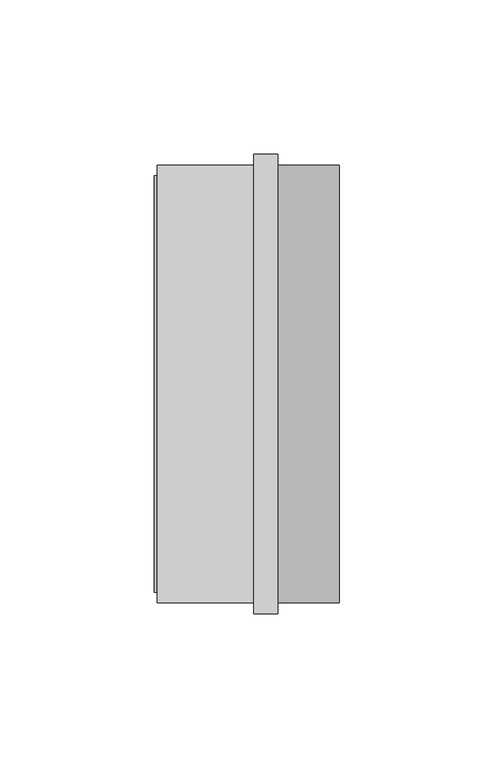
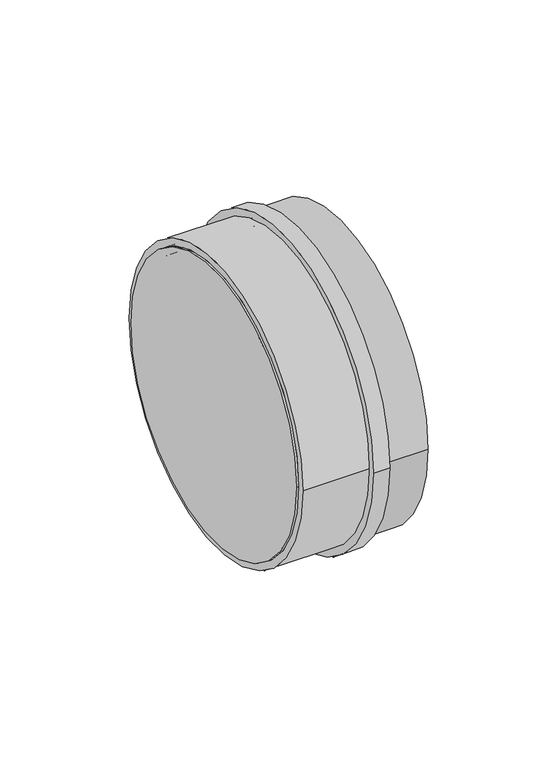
"""IFC4 building model written with IfcOpenShell, lengths in millimetres: pipe fitting geometry, Superdrain SKM-Plug : Superdrain SKM-Plug."""

import ifcopenshell
import ifcopenshell.guid

model = None  # the IFC model being written
_history = None  # IfcOwnerHistory: only IFC2X3 demands one
_inside = {}  # id of a spatial element -> (the spatial element, [elements in it])
_under = {}  # id of a project, library or spatial element -> (it, [spatial elements below it])
_declared = {}  # id of a project -> (the project, [libraries it declares])
_typed = {}  # id of a type object -> (the type object, [elements of that type])
_made_of = {}  # id of a material, layer set ... -> (it, [elements and type objects made of it])


def new_model(schema):
    """Start an empty IFC model of exactly this schema.

    Asked for "IFC4X3", IfcOpenShell would pick the latest addendum, in which some entities
    have other attributes; the version numbers below select the first issue.
    IFC2X3 requires an IfcOwnerHistory on every rooted entity: one is made here for all.
    """
    global model, _history
    if schema == "IFC4X3":
        model = ifcopenshell.file(schema_version=(4, 3, 0, 0))
    else:
        model = ifcopenshell.file(schema=schema)
    _inside.clear()
    _under.clear()
    _declared.clear()
    _typed.clear()
    _made_of.clear()
    _history = None
    if model.schema == "IFC2X3":
        org = make("IfcOrganization", Name="unknown")
        user = make(
            "IfcPersonAndOrganization",
            ThePerson=make("IfcPerson", FamilyName="unknown"),
            TheOrganization=org,
        )
        app = make(
            "IfcApplication",
            ApplicationDeveloper=org,
            Version="unknown",
            ApplicationFullName="unknown",
            ApplicationIdentifier="unknown",
        )
        _history = make(
            "IfcOwnerHistory",
            OwningUser=user,
            OwningApplication=app,
            ChangeAction="ADDED",
            CreationDate=0,
        )
    return model


def make(cls, **values):
    """One entity of the class cls with the attributes given. An attribute that is None is left unset."""
    return model.create_entity(
        cls, **{name: value for name, value in values.items() if value is not None}
    )


def rooted(cls, **values):
    """An entity with a GlobalId (a new one), such as an element, a storey or a relation."""
    return make(cls, GlobalId=ifcopenshell.guid.new(), OwnerHistory=_history, **values)


def si_unit(unit_type, name, prefix=None):
    """IfcSIUnit, for example si_unit("LENGTHUNIT", "METRE", prefix="MILLI")."""
    return make("IfcSIUnit", UnitType=unit_type, Prefix=prefix, Name=name)


def assignment(units):
    """IfcUnitAssignment: the units of a project."""
    return None if units is None else make("IfcUnitAssignment", Units=units)


def point(xyz):
    """IfcCartesianPoint."""
    return None if xyz is None else make("IfcCartesianPoint", Coordinates=xyz)


def direction(xyz):
    """IfcDirection."""
    return None if xyz is None else make("IfcDirection", DirectionRatios=xyz)


def frame(location, z_axis=None, x_axis=None):
    """IfcAxis2Placement3D, a coordinate frame: its origin and axes. An axis left out is left unset."""
    return make(
        "IfcAxis2Placement3D",
        Location=point(location),
        Axis=direction(z_axis),
        RefDirection=direction(x_axis),
    )


def frame_2d(location, x_axis=None):
    """IfcAxis2Placement2D, a coordinate frame in the plane: its origin and x axis."""
    return make(
        "IfcAxis2Placement2D", Location=point(location), RefDirection=direction(x_axis)
    )


def origin():
    """The frame at (0, 0, 0) with its axes left unset."""
    return frame((0.0, 0.0, 0.0))


def origin_2d():
    """The frame at (0, 0) in the plane with its x axis left unset."""
    return frame_2d((0.0, 0.0))


def place(relative_to, where):
    """IfcLocalPlacement: puts the frame where relative to a parent placement (None: the world)."""
    return make(
        "IfcLocalPlacement", PlacementRelTo=relative_to, RelativePlacement=where
    )


def context(
    kind, dimensions, precision=None, world=None, true_north=None, identifier=None
):
    """IfcGeometricRepresentationContext, for example the 3D "Model" context."""
    return make(
        "IfcGeometricRepresentationContext",
        ContextIdentifier=identifier,
        ContextType=kind,
        CoordinateSpaceDimension=dimensions,
        Precision=precision,
        WorldCoordinateSystem=world,
        TrueNorth=true_north,
    )


def project(units=None, contexts=None):
    """IfcProject with its units and contexts."""
    return rooted(
        "IfcProject",
        Name="project",
        RepresentationContexts=contexts,
        UnitsInContext=assignment(units),
    )


def spatial(cls, under=None, at=None, **own):
    """A site, building, storey or space (cls), placed at a placement, below another one or the project."""
    s = rooted(cls, ObjectPlacement=at, **own)
    if under is not None:
        _under.setdefault(under.id(), (under, []))[1].append(s)
    return s


def polyline(points):
    """IfcPolyline through the points."""
    return make("IfcPolyline", Points=[point(p) for p in points])


def circle_curve(where, radius):
    """IfcCircle in the frame where."""
    return make("IfcCircle", Position=where, Radius=radius)


def trimmed(basis, trim1, trim2, sense, master):
    """IfcTrimmedCurve: the piece of a basis curve between two trims."""
    return make(
        "IfcTrimmedCurve",
        BasisCurve=basis,
        Trim1=trim1,
        Trim2=trim2,
        SenseAgreement=sense,
        MasterRepresentation=master,
    )


def segment(curve, same_sense, transition):
    """IfcCompositeCurveSegment."""
    return make(
        "IfcCompositeCurveSegment",
        Transition=transition,
        SameSense=same_sense,
        ParentCurve=curve,
    )


def composite_curve(segments, self_intersect=None):
    """IfcCompositeCurve: segments joined end to end."""
    return make("IfcCompositeCurve", Segments=segments, SelfIntersect=self_intersect)


def outline(outer, holes=None, kind="AREA"):
    """IfcArbitraryClosedProfileDef: a profile drawn as a closed curve; with holes, ...WithVoids."""
    if holes is None:
        return make("IfcArbitraryClosedProfileDef", ProfileType=kind, OuterCurve=outer)
    return make(
        "IfcArbitraryProfileDefWithVoids",
        ProfileType=kind,
        OuterCurve=outer,
        InnerCurves=holes,
    )


def extrude(swept, where, along, depth):
    """IfcExtrudedAreaSolid: the profile swept, set in the frame where, extruded along a direction by depth."""
    return make(
        "IfcExtrudedAreaSolid",
        SweptArea=swept,
        Position=where,
        ExtrudedDirection=direction(along),
        Depth=depth,
    )


def shape(context_of_items, identifier, shape_type, items):
    """IfcShapeRepresentation: the items that make up one representation, for example the "Body"."""
    return make(
        "IfcShapeRepresentation",
        ContextOfItems=context_of_items,
        RepresentationIdentifier=identifier,
        RepresentationType=shape_type,
        Items=items,
    )


def source(mapping_origin, context_of_items, identifier, shape_type, items):
    """IfcRepresentationMap: a shape defined once, which mapped items show again and again."""
    return make(
        "IfcRepresentationMap",
        MappingOrigin=mapping_origin,
        MappedRepresentation=shape(context_of_items, identifier, shape_type, items),
    )


def transform(
    local_origin,
    x_axis=None,
    y_axis=None,
    z_axis=None,
    scale=None,
    scale2=None,
    scale3=None,
    uniform=True,
):
    """IfcCartesianTransformationOperator3D, or its non-uniform kind. x_axis, y_axis, z_axis: its Axis1, 2, 3."""
    if uniform:
        return make(
            "IfcCartesianTransformationOperator3D",
            Axis1=direction(x_axis),
            Axis2=direction(y_axis),
            LocalOrigin=point(local_origin),
            Scale=scale,
            Axis3=direction(z_axis),
        )
    return make(
        "IfcCartesianTransformationOperator3DnonUniform",
        Axis1=direction(x_axis),
        Axis2=direction(y_axis),
        LocalOrigin=point(local_origin),
        Scale=scale,
        Axis3=direction(z_axis),
        Scale2=scale2,
        Scale3=scale3,
    )


def mapped(mapping_source, mapping_target):
    """IfcMappedItem: shows the shape of a source again, moved by a transform."""
    return make(
        "IfcMappedItem", MappingSource=mapping_source, MappingTarget=mapping_target
    )


def made_of(thing, what):
    """Note that an element or type object is made of a material, layer set ...; save() writes the relation."""
    if what is not None:
        _made_of.setdefault(what.id(), (what, []))[1].append(thing)
    return thing


def element(
    cls,
    number,
    at=None,
    inside=None,
    cuts=None,
    type_object=None,
    material=None,
    context=None,
    identifier="Body",
    shape_type=None,
    held_by="IfcProductDefinitionShape",
    body=None,
    shapes=None,
    **own,
):
    """One element of the class cls, such as IfcWall. Its Tag is "e" and its number.

    at: its placement. inside: the storey or other place that contains it. cuts: it is an
    opening in that element (IfcRelVoidsElement). A single representation is given by context,
    identifier, shape_type and body (its items); several are given by shapes. held_by: the class
    of the entity that holds the representations. save() writes the other relations.
    """
    e = rooted(cls, Tag="e%d" % number, ObjectPlacement=at, **own)
    if body is not None:
        shapes = [shape(context, identifier, shape_type, body)]
    if shapes is not None:
        e.Representation = make(held_by, Representations=shapes)
    if inside is not None:
        _inside.setdefault(inside.id(), (inside, []))[1].append(e)
    if cuts is not None:
        rooted(
            "IfcRelVoidsElement", RelatingBuildingElement=cuts, RelatedOpeningElement=e
        )
    if type_object is not None:
        _typed.setdefault(type_object.id(), (type_object, []))[1].append(e)
    return made_of(e, material)


def aggregate(whole, parts):
    """IfcRelAggregates: a whole, such as a stair, and the parts it consists of."""
    return rooted("IfcRelAggregates", RelatingObject=whole, RelatedObjects=parts)


def save(model, path):
    """Write the relations noted so far, then the file.

    IfcRelAggregates (storeys below a building ...), IfcRelContainedInSpatialStructure (elements
    in a storey), IfcRelDefinesByType, IfcRelAssociatesMaterial and IfcRelDeclares: one each for
    every whole, place, type object, material and project.
    """
    for whole, parts in _under.values():
        aggregate(whole, parts)
    for where, things in _inside.values():
        rooted(
            "IfcRelContainedInSpatialStructure",
            RelatedElements=things,
            RelatingStructure=where,
        )
    for kind, things in _typed.values():
        rooted("IfcRelDefinesByType", RelatedObjects=things, RelatingType=kind)
    for what, things in _made_of.values():
        rooted("IfcRelAssociatesMaterial", RelatedObjects=things, RelatingMaterial=what)
    for by, libraries in _declared.values():
        rooted("IfcRelDeclares", RelatingContext=by, RelatedDefinitions=libraries)
    model.write(path)


def plane_surface(at):
    """IfcPlane: the flat surface through the origin of the frame at, square to its z axis."""
    return make("IfcPlane", Position=at)


def cylinder_surface(at, radius):
    """IfcCylindricalSurface: all points at the distance radius from the z axis of the frame at."""
    return make("IfcCylindricalSurface", Position=at, Radius=radius)


def revolved_surface(curve, axis_point, axis_direction):
    """IfcSurfaceOfRevolution: the curve turned about the line through axis_point along axis_direction."""
    return make(
        "IfcSurfaceOfRevolution",
        SweptCurve=make("IfcArbitraryOpenProfileDef", ProfileType="CURVE", Curve=curve),
        AxisPosition=make("IfcAxis1Placement", Location=point(axis_point), Axis=direction(axis_direction)),
    )


def advanced_brep(points, edges, surfaces, faces):
    """IfcAdvancedBrep: a solid bounded by faces that lie on surfaces and meet in shared edges.

    An edge is (start, end): straight between two places in points (the first is 0);
    or (start, end, curve); or (start, end, curve, False) where it runs against its curve.
    A face is (place in surfaces, loops), or (place, loops, False) where it looks against
    its surface's normal. A loop lists edges by number (the first is 1), with a minus sign
    where the edge is run from its end to its start. The first loop is the outer one.
    """
    corners = [point(p) for p in points]
    vertices = [make("IfcVertexPoint", VertexGeometry=c) for c in corners]
    made = []
    for start, end, *more in edges:
        made.append(
            make(
                "IfcEdgeCurve",
                EdgeStart=vertices[start],
                EdgeEnd=vertices[end],
                EdgeGeometry=more[0] if more else make("IfcPolyline", Points=[corners[start], corners[end]]),
                SameSense=more[1] if len(more) > 1 else True,
            )
        )
    hull = []
    for where, loops, *sense in faces:
        bounds = []
        for j, loop in enumerate(loops):
            ring = [make("IfcOrientedEdge", EdgeElement=made[abs(k) - 1], Orientation=k > 0) for k in loop]
            bounds.append(
                make(
                    "IfcFaceOuterBound" if j == 0 else "IfcFaceBound",
                    Bound=make("IfcEdgeLoop", EdgeList=ring),
                    Orientation=True,
                )
            )
        hull.append(make("IfcAdvancedFace", Bounds=bounds, FaceSurface=surfaces[where], SameSense=sense[0] if sense else True))
    return make("IfcAdvancedBrep", Outer=make("IfcClosedShell", CfsFaces=hull))


def pipe_fitting_a771f2ab(model_context):
    return source(origin(), model_context, "Body", "SolidModel", [
        extrude(outline(composite_curve([segment(trimmed(circle_curve(origin_2d(), 70.875), [point((70.875, 0.0))], [point((-70.875, 0.0))], False, "CARTESIAN"), True, "CONTINUOUS"), segment(trimmed(circle_curve(origin_2d(), 70.875), [point((-70.875, 0.0))], [point((70.875, 0.0))], False, "CARTESIAN"), True, "CONTINUOUS")], self_intersect=False), holes=[composite_curve([segment(trimmed(circle_curve(origin_2d(), 67.5), [point((67.5, 0.0))], [point((-67.5, 0.0))], True, "CARTESIAN"), True, "CONTINUOUS"), segment(trimmed(circle_curve(origin_2d(), 67.5), [point((-67.5, 0.0))], [point((67.5, 0.0))], True, "CARTESIAN"), True, "CONTINUOUS")], self_intersect=False)]), frame((0.0, 0.0, 0.0), z_axis=(1.0, 0.0, 0.0), x_axis=(0.0, 1.0, 0.0)), (0.0, 0.0, 1.0), 39.0),
        extrude(outline(composite_curve([segment(trimmed(circle_curve(origin_2d(), 74.41875), [point((74.41875, 0.0))], [point((-74.41875, 0.0))], False, "CARTESIAN"), True, "CONTINUOUS"), segment(trimmed(circle_curve(origin_2d(), 74.41875), [point((-74.41875, 0.0))], [point((74.41875, 0.0))], False, "CARTESIAN"), True, "CONTINUOUS")], self_intersect=False), holes=[composite_curve([segment(trimmed(circle_curve(origin_2d(), 67.5), [point((67.5, 0.0))], [point((-67.5, 0.0))], True, "CARTESIAN"), True, "CONTINUOUS"), segment(trimmed(circle_curve(origin_2d(), 67.5), [point((-67.5, 0.0))], [point((67.5, 0.0))], True, "CARTESIAN"), True, "CONTINUOUS")], self_intersect=False)]), frame((31.2, 0.0, 0.0), z_axis=(1.0, 0.0, 0.0), x_axis=(0.0, 1.0, 0.0)), (0.0, 0.0, 1.0), 7.8),
        extrude(outline(composite_curve([segment(trimmed(circle_curve(origin_2d(), 67.5), [point((67.5, 0.0))], [point((-67.5, 0.0))], False, "CARTESIAN"), True, "CONTINUOUS"), segment(trimmed(circle_curve(origin_2d(), 67.5), [point((-67.5, 0.0))], [point((67.5, 0.0))], False, "CARTESIAN"), True, "CONTINUOUS")], self_intersect=False)), frame((-1.0, 0.0, 0.0), z_axis=(1.0, 0.0, 0.0), x_axis=(0.0, 1.0, 0.0)), (0.0, 0.0, 1.0), 1.0),
        advanced_brep(
        [(0.0, -67.5, 0.0), (0.0, 67.5, 0.0), (0.0, 64.125, 0.0), (0.0, -64.125, 0.0), (59.0, -67.5, 0.0), (59.0, 67.5, 0.0), (39.0, -64.125, 0.0), (39.0, 64.125, 0.0)],
        [
            (0, 1, circle_curve(frame((0.0, 0.0, 0.0), z_axis=(-1.0, 0.0, 0.0), x_axis=(0.0, 1.0, 0.0)), 67.5)),
            (1, 0, circle_curve(frame((0.0, 0.0, 0.0), z_axis=(-1.0, 0.0, 0.0), x_axis=(0.0, 1.0, 0.0)), 67.5)),
            (2, 3, circle_curve(frame((0.0, 0.0, 0.0), z_axis=(1.0, 0.0, 0.0), x_axis=(0.0, 1.0, 0.0)), 64.125)),
            (3, 2, circle_curve(frame((0.0, 0.0, 0.0), z_axis=(1.0, 0.0, 0.0), x_axis=(0.0, 1.0, 0.0)), 64.125)),
            (4, 5, circle_curve(frame((59.0, 0.0, 0.0), z_axis=(1.0, 0.0, 0.0), x_axis=(0.0, 1.0, 0.0)), 67.5)),
            (5, 4, circle_curve(frame((59.0, 0.0, 0.0), z_axis=(1.0, 0.0, 0.0), x_axis=(0.0, 1.0, 0.0)), 67.5)),
            (0, 4),
            (5, 1),
            (6, 7, circle_curve(frame((39.0, 0.0, 0.0), z_axis=(-1.0, 0.0, 0.0), x_axis=(0.0, 1.0, 0.0)), 64.125)),
            (7, 6, circle_curve(frame((39.0, 0.0, 0.0), z_axis=(-1.0, 0.0, 0.0), x_axis=(0.0, 1.0, 0.0)), 64.125)),
            (6, 3),
            (2, 7),
        ],
        [
            plane_surface(frame((0.0, 0.0, 0.0), z_axis=(-1.0, 0.0, 0.0), x_axis=(0.0, 0.0, 1.0))),
            plane_surface(frame((59.0, 0.0, 0.0), z_axis=(1.0, 0.0, 0.0), x_axis=(0.0, 0.0, 1.0))),
            cylinder_surface(frame((0.0, 0.0, 0.0), z_axis=(-1.0, 0.0, 0.0), x_axis=(0.0, 1.0, 0.0)), 67.5),
            plane_surface(frame((39.0, 0.0, 0.0), z_axis=(-1.0, 0.0, 0.0), x_axis=(0.0, 0.0, 1.0))),
            revolved_surface(polyline([(0.0, 64.125, 0.0), (39.0, 64.125, 0.0)]), (-20.0, 0.0, 0.0), (-1.0, 0.0, 0.0)),
        ],
        [
            (0, [[1, 2], [3, 4]]),
            (1, [[5, 6]]),
            (2, [[-1, 7, -6, 8]]),
            (2, [[-2, -8, -5, -7]]),
            (3, [[9, 10]]),
            (4, [[-9, 11, -3, 12]]),
            (4, [[-10, -12, -4, -11]]),
        ],
    ),
        extrude(outline(composite_curve([segment(trimmed(circle_curve(origin_2d(), 70.875), [point((-70.875, 0.0))], [point((70.875, 0.0))], False, "CARTESIAN"), True, "CONTINUOUS"), segment(trimmed(circle_curve(origin_2d(), 70.875), [point((70.875, 0.0))], [point((-70.875, 0.0))], False, "CARTESIAN"), True, "CONTINUOUS")], self_intersect=False)), frame((39.0, 0.0, 0.0), z_axis=(1.0, 0.0, 0.0), x_axis=(0.0, 1.0, 0.0)), (0.0, 0.0, 1.0), 20.0),
    ])


if __name__ == "__main__":
    model = new_model("IFC4")
    model_context = context("Model", 3, world=origin())
    ifc_project = project(units=[si_unit("LENGTHUNIT", "METRE", prefix="MILLI")], contexts=[model_context])
    site = spatial("IfcSite", under=ifc_project)
    building = spatial("IfcBuilding", under=site)
    placement = place(None, origin())
    pipe_fitting_shape = pipe_fitting_a771f2ab(model_context)
    element("IfcPipeFitting", 1, ObjectType="Superdrain SKM-Plug : Superdrain SKM-Plug", at=placement, inside=building, context=model_context, shape_type="MappedRepresentation", body=[
        mapped(pipe_fitting_shape, transform((0.0, 0.0, 0.0), x_axis=(1.0, 0.0, 0.0), y_axis=(0.0, 1.0, 0.0), z_axis=(0.0, 0.0, 1.0))),
    ])
    save(model, "model.ifc")
